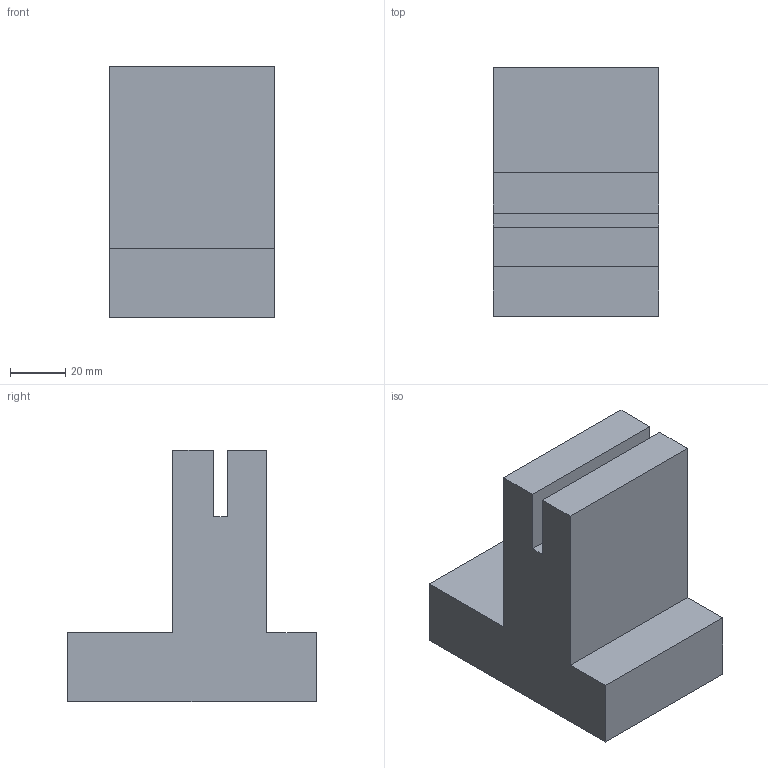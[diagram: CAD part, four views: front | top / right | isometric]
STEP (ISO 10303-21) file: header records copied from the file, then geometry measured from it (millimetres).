
FILE_DESCRIPTION(('STEP AP214'),'1');
FILE_NAME('.step','2025-06-17T06:49:07',(' '),('ANSOFT Corporation'),'Spatial InterOp 3D',' ',' ');
FILE_SCHEMA(('AUTOMOTIVE_DESIGN { 1 0 10303 214 1 1 1 1 }'));
Length unit declared in the file: millimetre
Products named in the file (1): Box76
Bounding box: 60 x 90 x 91 mm (x, y, z)
Volume: 262440 mm3; surface area: 33348 mm2
Topology: 1 solids, 1 shells, 14 faces, 36 edges, 24 vertices
Faces by surface type: plane 14
Entity records: 444 total; most frequent: CARTESIAN_POINT 75, ORIENTED_EDGE 72, DIRECTION 66, EDGE_CURVE 36, LINE 36, VECTOR 36, VERTEX_POINT 24, AXIS2_PLACEMENT_3D 15
